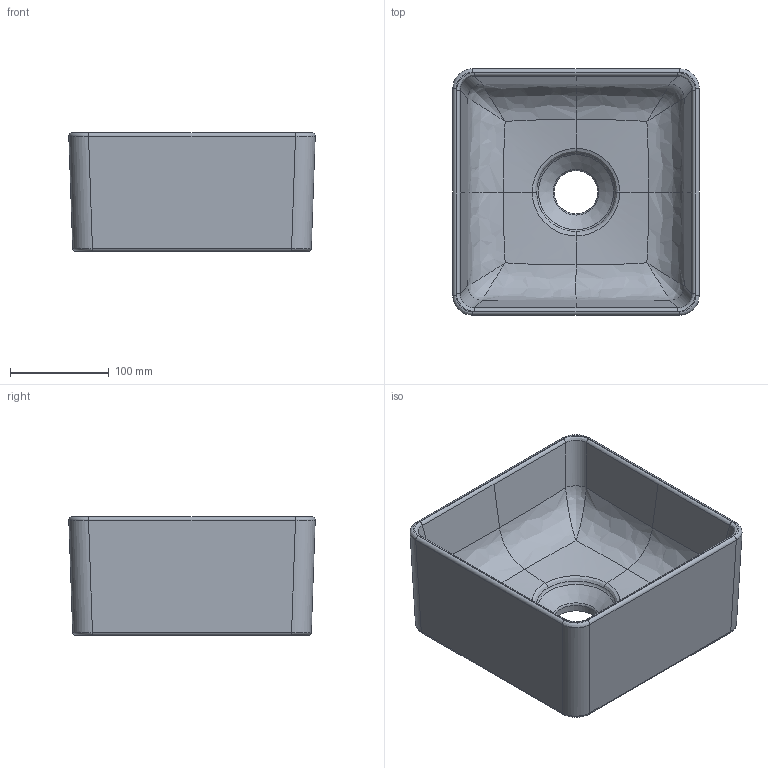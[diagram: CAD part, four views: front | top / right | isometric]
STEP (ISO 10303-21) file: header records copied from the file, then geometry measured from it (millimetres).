
FILE_DESCRIPTION(/* description */ (''),/* implementation_level */ '2;1');
FILE_NAME(/* name */ 'ZERO lavabo A 25x25 h12 (00008634_A).stp',/* time_stamp */ '2025-02-20T16:38:36+01:00',/* author */ (''),/* organization */ (''),/* preprocessor_version */ 'ST-DEVELOPER v20',/* originating_system */ 'SIEMENS PLM Software NX2406.6001',/* authorisation */ '');
FILE_SCHEMA (('AP203_CONFIGURATION_CONTROLLED_3D_DESIGN_OF_MECHANICAL_PARTS_AND_ASSEMBLIES_MIM_LF { 1 0 10303 403 2 1 2}'));
Length unit declared in the file: millimetre
Products named in the file (1): 00008634_objects
Bounding box: 249.75 x 249.75 x 120 mm (x, y, z)
Volume: 2707620 mm3; surface area: 295905.2 mm2
Topology: 1 solids, 1 shells, 165 faces, 378 edges, 215 vertices
Faces by surface type: bspline 80, cylinder 49, plane 26, cone 6, torus 4
Full cylindrical faces by diameter (mm): 13.5 x2, 20 x2, 22 x1
Entity records: 7824 total; most frequent: CARTESIAN_POINT 4578, ORIENTED_EDGE 696, DIRECTION 580, EDGE_CURVE 348, AXIS2_PLACEMENT_3D 242, VERTEX_POINT 208, EDGE_LOOP 190, ADVANCED_FACE 165
